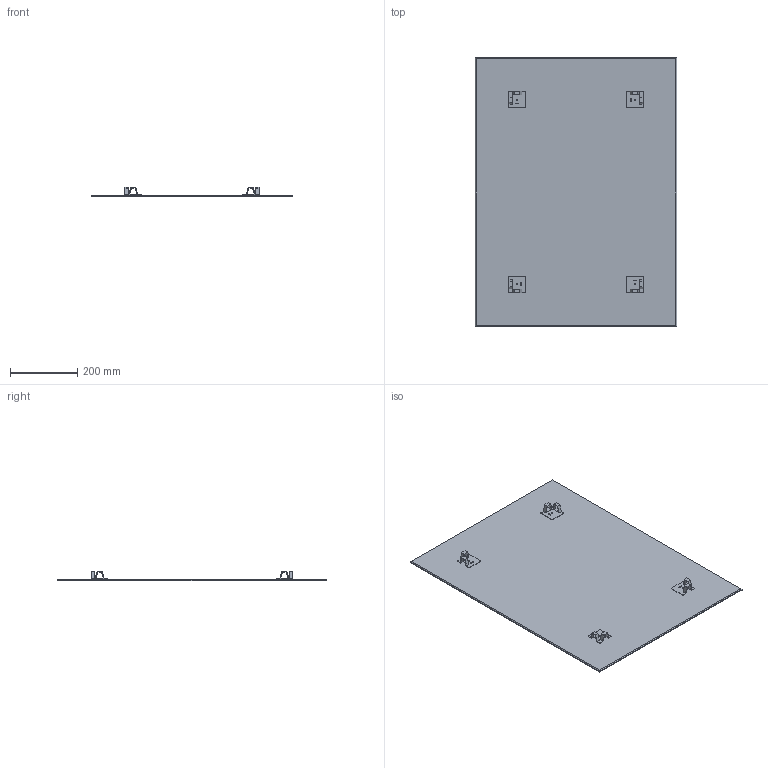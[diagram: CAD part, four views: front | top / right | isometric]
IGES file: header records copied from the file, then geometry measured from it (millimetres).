
Start section: SolidWorks IGES file using analytic representation for surfaces
Global section: file name: G:\Projects\New project\For Marketing\IGS\IGS\2016-3-18\B01001001VW.IGS; native system: SolidWorks 2010; preprocessor: SolidWorks 2010; author: linda; date: 160315.144406; units: millimetre
Bounding box: 600 x 800 x 28 mm (x, y, z)
Surface area: 988094.1 mm2 (no closed solid volume)
Topology: 0 solids, 0 shells, 127 faces, 1406 edges, 1406 vertices
Faces by surface type: bspline 107, revolution 20
